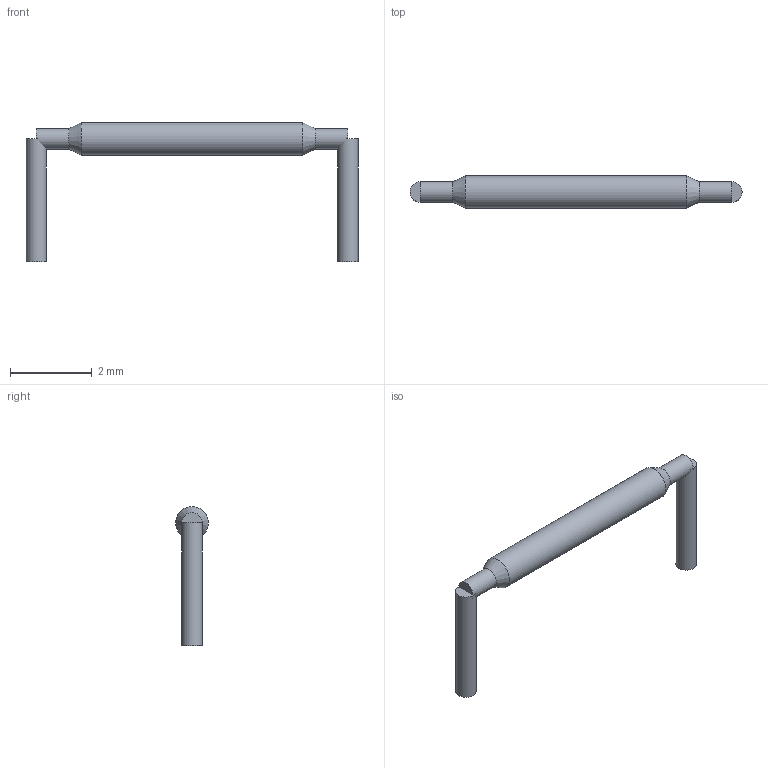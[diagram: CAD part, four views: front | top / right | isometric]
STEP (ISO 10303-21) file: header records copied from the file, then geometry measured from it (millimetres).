
FILE_DESCRIPTION(('FreeCAD Model'),'2;1');
FILE_NAME('Open CASCADE Shape Model','2026-04-07T19:07:43',('FreeCAD'),( 'FreeCAD'),'Open CASCADE STEP processor 7.8','FreeCAD','Unknown');
FILE_SCHEMA(('AUTOMOTIVE_DESIGN { 1 0 10303 214 1 1 1 1 }'));
Length unit declared in the file: millimetre
Products named in the file (1): Open CASCADE STEP translator 7.8 3
Bounding box: 8.12 x 0.8 x 3.4 mm (x, y, z)
Volume: 5.6 mm3; surface area: 38 mm2
Topology: 4 solids, 4 shells, 14 faces, 16 edges, 10 vertices
Faces by surface type: plane 8, cylinder 4, cone 2
Full cylindrical faces by diameter (mm): 0.5 x3, 0.8 x1
Entity records: 287 total; most frequent: DIRECTION 56, CARTESIAN_POINT 41, ORIENTED_EDGE 32, AXIS2_PLACEMENT_3D 25, EDGE_CURVE 16, ADVANCED_FACE 14, FACE_BOUND 14, EDGE_LOOP 14
